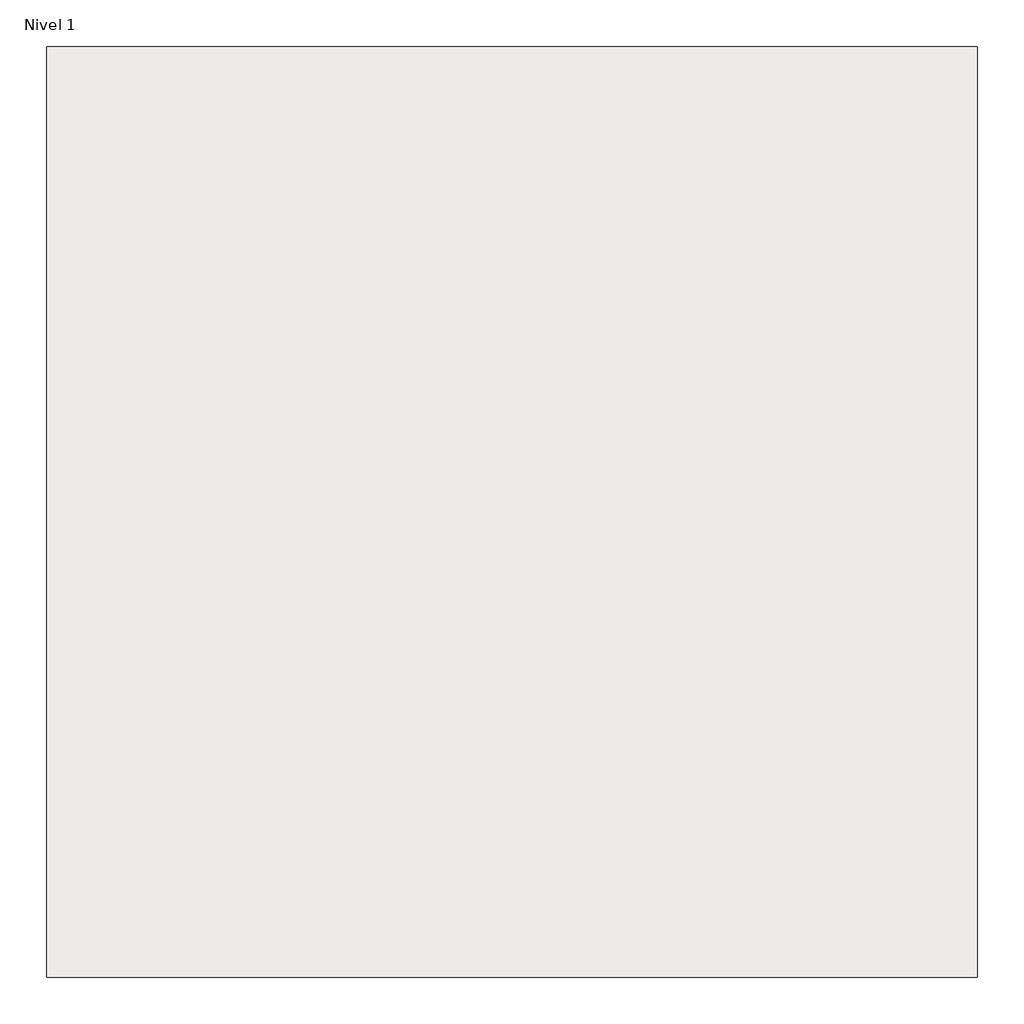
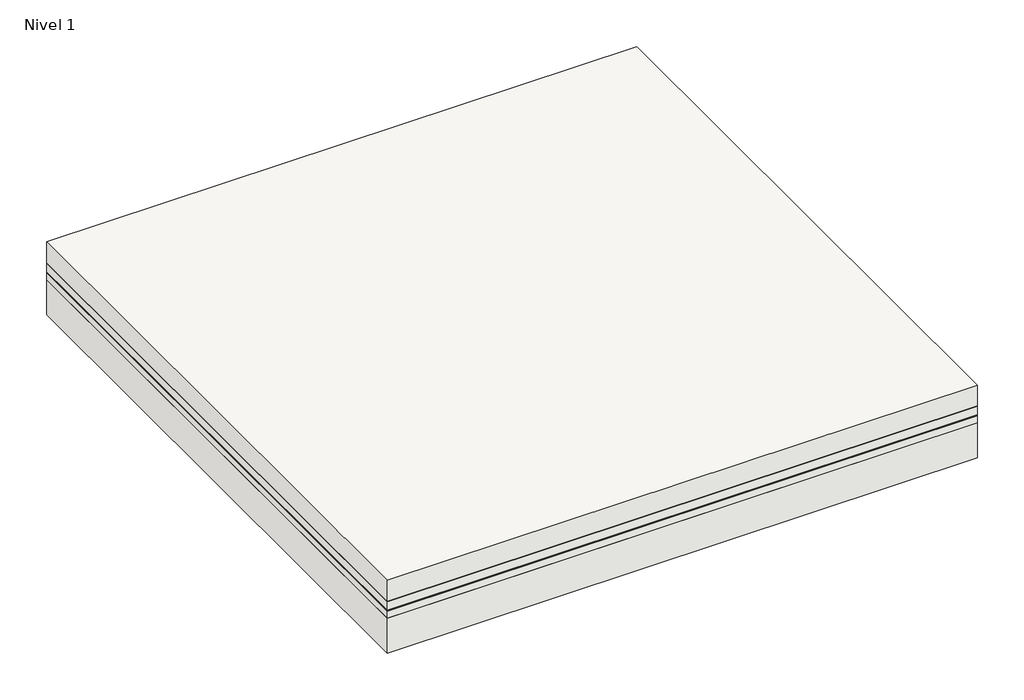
# One storey: 1 roof.
"""IFC4 building model written with IfcOpenShell, lengths in millimetres."""

from ifc_helpers import new_model, si_unit, frame, origin, origin_with_axes, place, context, project, spatial, polyline, outline, extrude, element, save

model = new_model("IFC4")

# Units and contexts
model_context = context("Model", 3, world=origin())
ifc_project = project(units=[si_unit("LENGTHUNIT", "METRE", prefix="MILLI")], contexts=[model_context])

# Site, building, storey
site = spatial("IfcSite", under=ifc_project)
building = spatial("IfcBuilding", under=site)
storey = spatial("IfcBuildingStorey", under=building, Name="Nivel 1", Elevation=0.0)

# Roof
placement = place(None, origin())
element("IfcRoof", 1, ObjectType="CubPlanaInvertidaTrans-PeatonesUsoPrivado_SoladoFlotantePlots_BITC7_PLOTS", at=placement, inside=storey, context=model_context, shape_type="SweptSolid", body=[
    extrude(outline(polyline([(-2544.9527165, -3086.8428917), (-6544.9527165, -3086.8428917), (-6544.9527165, 913.1571083), (-2544.9527165, 913.1571083), (-2544.9527165, -3086.8428917)])), frame((0.0, 0.0, 370.0), z_axis=(0.0, 0.0, 1.0), x_axis=(1.0, 0.0, 0.0)), (0.0, 0.0, 1.0), 150.0),
    extrude(outline(polyline([(-2544.9527165, -3086.8428917), (-6544.9527165, -3086.8428917), (-6544.9527165, 913.1571083), (-2544.9527165, 913.1571083), (-2544.9527165, -3086.8428917)])), frame((0.0, 0.0, 368.0), z_axis=(0.0, 0.0, 1.0), x_axis=(1.0, 0.0, 0.0)), (0.0, 0.0, 1.0), 2.0),
    extrude(outline(polyline([(-2544.9527165, -3086.8428917), (-6544.9527165, -3086.8428917), (-6544.9527165, 913.1571083), (-2544.9527165, 913.1571083), (-2544.9527165, -3086.8428917)])), frame((0.0, 0.0, 308.0), z_axis=(0.0, 0.0, 1.0), x_axis=(1.0, 0.0, 0.0)), (0.0, 0.0, 1.0), 60.0),
    extrude(outline(polyline([(-2544.9527165, -3086.8428917), (-6544.9527165, -3086.8428917), (-6544.9527165, 913.1571083), (-2544.9527165, 913.1571083), (-2544.9527165, -3086.8428917)])), frame((0.0, 0.0, 306.0), z_axis=(0.0, 0.0, 1.0), x_axis=(1.0, 0.0, 0.0)), (0.0, 0.0, 1.0), 2.0),
    extrude(outline(polyline([(-2544.9527165, -3086.8428917), (-6544.9527165, -3086.8428917), (-6544.9527165, 913.1571083), (-2544.9527165, 913.1571083), (-2544.9527165, -3086.8428917)])), frame((0.0, 0.0, 304.0), z_axis=(0.0, 0.0, 1.0), x_axis=(1.0, 0.0, 0.0)), (0.0, 0.0, 1.0), 2.0),
    extrude(outline(polyline([(-2544.9527165, -3086.8428917), (-6544.9527165, -3086.8428917), (-6544.9527165, 913.1571083), (-2544.9527165, 913.1571083), (-2544.9527165, -3086.8428917)])), frame((0.0, 0.0, 302.0), z_axis=(0.0, 0.0, 1.0), x_axis=(1.0, 0.0, 0.0)), (0.0, 0.0, 1.0), 2.0),
    extrude(outline(polyline([(-2544.9527165, -3086.8428917), (-6544.9527165, -3086.8428917), (-6544.9527165, 913.1571083), (-2544.9527165, 913.1571083), (-2544.9527165, -3086.8428917)])), frame((0.0, 0.0, 300.0), z_axis=(0.0, 0.0, 1.0), x_axis=(1.0, 0.0, 0.0)), (0.0, 0.0, 1.0), 2.0),
    extrude(outline(polyline([(-2544.9527165, -3086.8428917), (-6544.9527165, -3086.8428917), (-6544.9527165, 913.1571083), (-2544.9527165, 913.1571083), (-2544.9527165, -3086.8428917)])), frame((0.0, 0.0, 250.0), z_axis=(0.0, 0.0, 1.0), x_axis=(1.0, 0.0, 0.0)), (0.0, 0.0, 1.0), 50.0),
    extrude(outline(polyline([(-2544.9527165, -3086.8428917), (-6544.9527165, -3086.8428917), (-6544.9527165, 913.1571083), (-2544.9527165, 913.1571083), (-2544.9527165, -3086.8428917)])), origin_with_axes(), (0.0, 0.0, 1.0), 250.0),
])

save(model, "model.ifc")
